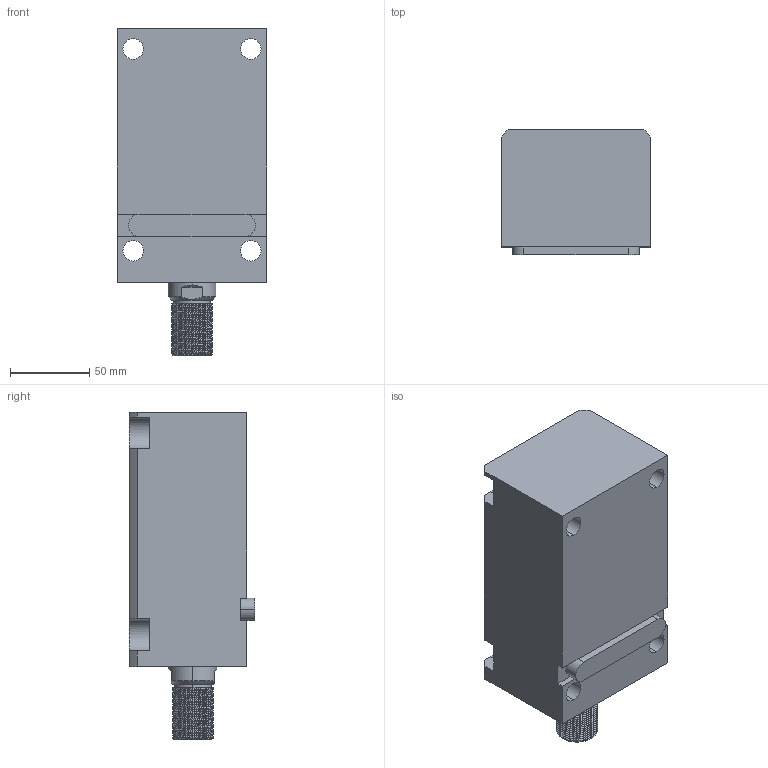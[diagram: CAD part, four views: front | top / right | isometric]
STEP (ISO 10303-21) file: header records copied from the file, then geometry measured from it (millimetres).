
FILE_DESCRIPTION (( 'STEP AP203' ), '1' );
FILE_NAME ('CHTB-LA50-100W.STEP', '2018-05-18T02:08:05', ( '' ), ( '' ), 'SwSTEP 2.0', 'SolidWorks 2015', '' );
FILE_SCHEMA (( 'CONFIG_CONTROL_DESIGN' ));
Length unit declared in the file: millimetre
Products named in the file (4): 活塞杆LA50-100W; CHTB-LA50-100W; CHTM-SDMA50QG; 掛极LA50-100W
Assembly tree (3 placements, depth 2):
  CHTB-LA50-100W
    掛极LA50-100W
    活塞杆LA50-100W
    CHTM-SDMA50QG
Bounding box: 94 x 79 x 206 mm (x, y, z)
Volume: 956322.7 mm3; surface area: 144985.1 mm2
Topology: 3 solids, 3 shells, 244 faces, 670 edges, 447 vertices
Faces by surface type: cylinder 136, plane 55, cone 21, bspline 16, torus 16
Entity records: 15046 total; most frequent: CARTESIAN_POINT 8903, ORIENTED_EDGE 1332, DIRECTION 1073, EDGE_CURVE 666, VERTEX_POINT 447, AXIS2_PLACEMENT_3D 416, EDGE_LOOP 277, FACE_OUTER_BOUND 244
